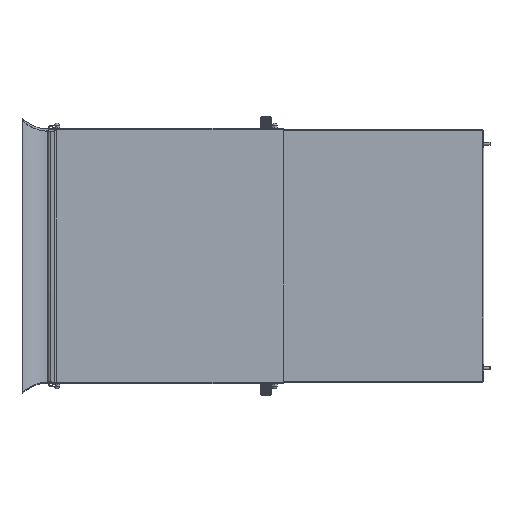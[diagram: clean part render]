
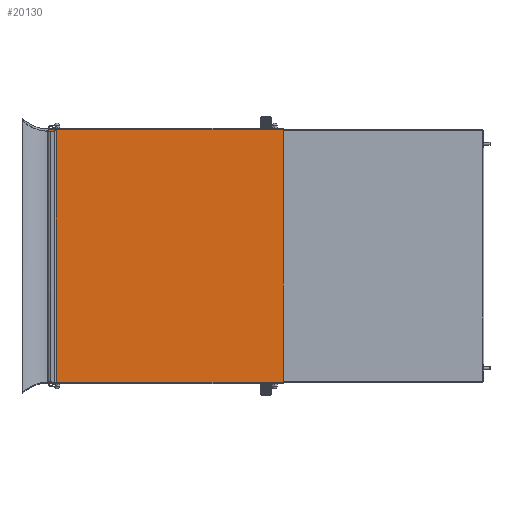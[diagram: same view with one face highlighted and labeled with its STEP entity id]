
A CAD part, top view. The second image highlights one B-rep face of the part: STEP entity #20130.
In plain terms, the highlighted planar face has unit normal (0, 0, 1) as drawn and (0, 0, -1) by its records, which use the part's own axes.
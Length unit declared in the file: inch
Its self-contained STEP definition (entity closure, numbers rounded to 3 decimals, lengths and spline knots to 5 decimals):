
#9083=CARTESIAN_POINT('',(8.625,-9.298,0.0));
#9084=VERTEX_POINT('',#9083);
#9092=CARTESIAN_POINT('',(8.625,9.298,0.0));
#9093=VERTEX_POINT('',#9092);
#9094=CARTESIAN_POINT('',(8.625,-9.298,0.0));
#9095=DIRECTION('',(0.0,1.0,0.0));
#9096=VECTOR('',#9095,18.596);
#9097=LINE('',#9094,#9096);
#9098=EDGE_CURVE('',#9084,#9093,#9097,.T.);
#20052=CARTESIAN_POINT('',(-8.625,9.298,0.0));
#20053=VERTEX_POINT('',#20052);
#20061=CARTESIAN_POINT('',(-8.625,-9.298,0.0));
#20062=VERTEX_POINT('',#20061);
#20063=CARTESIAN_POINT('',(-8.625,9.298,0.0));
#20064=DIRECTION('',(0.0,-1.0,0.0));
#20065=VECTOR('',#20064,18.596);
#20066=LINE('',#20063,#20065);
#20067=EDGE_CURVE('',#20053,#20062,#20066,.T.);
#20087=CARTESIAN_POINT('',(-8.625,9.298,0.0));
#20088=DIRECTION('',(1.0,0.0,0.0));
#20089=VECTOR('',#20088,17.25);
#20090=LINE('',#20087,#20089);
#20091=EDGE_CURVE('',#20053,#9093,#20090,.T.);
#20114=CARTESIAN_POINT('',(0.0,0.,0.0));
#20115=DIRECTION('',(0.0,0.0,1.0));
#20116=DIRECTION('',(1.0,0.0,0.0));
#20117=AXIS2_PLACEMENT_3D('',#20114,#20115,#20116);
#20118=PLANE('',#20117);
#20119=ORIENTED_EDGE('',*,*,#20091,.T.);
#20120=ORIENTED_EDGE('',*,*,#9098,.F.);
#20121=CARTESIAN_POINT('',(8.625,-9.298,0.0));
#20122=DIRECTION('',(-1.0,0.0,0.0));
#20123=VECTOR('',#20122,17.25);
#20124=LINE('',#20121,#20123);
#20125=EDGE_CURVE('',#9084,#20062,#20124,.T.);
#20126=ORIENTED_EDGE('',*,*,#20125,.T.);
#20127=ORIENTED_EDGE('',*,*,#20067,.F.);
#20128=EDGE_LOOP('',(#20119,#20120,#20126,#20127));
#20129=FACE_OUTER_BOUND('',#20128,.T.);
#20130=ADVANCED_FACE('',(#20129),#20118,.F.);
